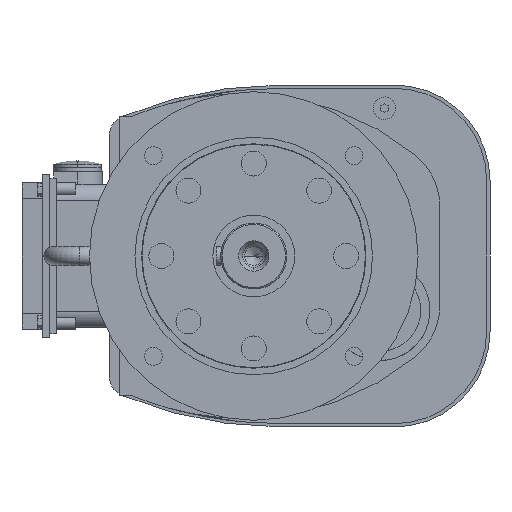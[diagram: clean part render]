
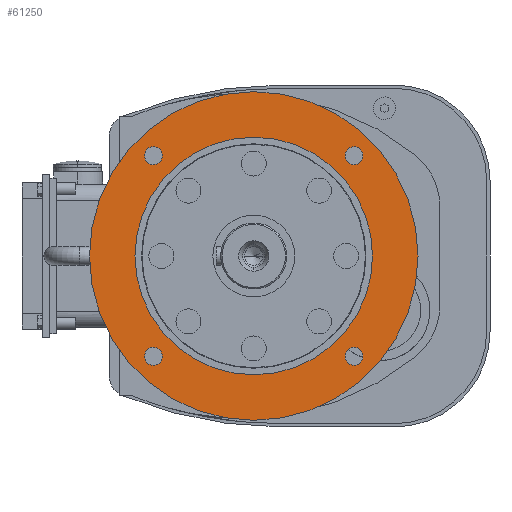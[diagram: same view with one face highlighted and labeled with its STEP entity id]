
A CAD part, left-side view. The second image highlights one B-rep face of the part: STEP entity #61250.
In plain terms, the highlighted planar face has unit normal (-1, 0, 0).
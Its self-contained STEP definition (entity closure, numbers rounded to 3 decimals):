
#56980=CARTESIAN_POINT('',(50.,0.,-90.));
#56990=VERTEX_POINT('',#56980);
#57040=CARTESIAN_POINT('',(50.,0.,0.));
#57050=DIRECTION('',(-1.,0.,0.));
#57060=DIRECTION('',(0.,0.,-1.));
#57070=AXIS2_PLACEMENT_3D('',#57040,#57050,#57060);
#57080=CIRCLE('',#57070,90.);
#57090=CARTESIAN_POINT('',(50.,0.,90.));
#57100=VERTEX_POINT('',#57090);
#57110=EDGE_CURVE('',#57100,#56990,#57080,.T.);
#57400=CARTESIAN_POINT('',(50.,-69.264,-76.014));
#57410=VERTEX_POINT('',#57400);
#57490=CARTESIAN_POINT('',(50.,-82.764,-76.014));
#57500=VERTEX_POINT('',#57490);
#57530=CARTESIAN_POINT('',(50.,-76.014,-76.014));
#57540=DIRECTION('',(-1.,0.,0.));
#57550=DIRECTION('',(0.,-1.,0.));
#57560=AXIS2_PLACEMENT_3D('',#57530,#57540,#57550);
#57570=CIRCLE('',#57560,6.75);
#57580=EDGE_CURVE('',#57410,#57500,#57570,.T.);
#57720=CARTESIAN_POINT('',(50.,-124.474,0.));
#57730=VERTEX_POINT('',#57720);
#57810=CARTESIAN_POINT('',(50.,124.474,0.));
#57820=VERTEX_POINT('',#57810);
#57850=CARTESIAN_POINT('',(50.,0.,0.));
#57860=DIRECTION('',(-1.,0.,0.));
#57870=DIRECTION('',(0.,-1.,0.));
#57880=AXIS2_PLACEMENT_3D('',#57850,#57860,#57870);
#57890=CIRCLE('',#57880,124.474);
#57900=EDGE_CURVE('',#57820,#57730,#57890,.T.);
#58620=CARTESIAN_POINT('',(50.,82.764,76.014));
#58630=VERTEX_POINT('',#58620);
#58710=CARTESIAN_POINT('',(50.,69.264,76.014));
#58720=VERTEX_POINT('',#58710);
#58750=CARTESIAN_POINT('',(50.,76.014,76.014));
#58760=DIRECTION('',(-1.,0.,0.));
#58770=DIRECTION('',(0.,-1.,0.));
#58780=AXIS2_PLACEMENT_3D('',#58750,#58760,#58770);
#58790=CIRCLE('',#58780,6.75);
#58800=EDGE_CURVE('',#58630,#58720,#58790,.T.);
#60570=CARTESIAN_POINT('',(50.,-69.264,76.014));
#60580=VERTEX_POINT('',#60570);
#60660=CARTESIAN_POINT('',(50.,-82.764,76.014));
#60670=VERTEX_POINT('',#60660);
#60700=CARTESIAN_POINT('',(50.,-76.014,76.014));
#60710=DIRECTION('',(-1.,0.,0.));
#60720=DIRECTION('',(0.,-1.,0.));
#60730=AXIS2_PLACEMENT_3D('',#60700,#60710,#60720);
#60740=CIRCLE('',#60730,6.75);
#60750=EDGE_CURVE('',#60580,#60670,#60740,.T.);
#60800=CARTESIAN_POINT('',(50.,0.,112.1));
#60810=DIRECTION('',(-1.,-0.,-0.));
#60820=DIRECTION('',(0.,0.,-1.));
#60830=AXIS2_PLACEMENT_3D('',#60800,#60810,#60820);
#60840=PLANE('',#60830);
#60850=EDGE_CURVE('',#58720,#58630,#58790,.T.);
#60860=ORIENTED_EDGE('',*,*,#60850,.F.);
#60870=ORIENTED_EDGE('',*,*,#58800,.F.);
#60880=EDGE_LOOP('',(#60870,#60860));
#60890=FACE_BOUND('',#60880,.T.);
#60900=EDGE_CURVE('',#57500,#57410,#57570,.T.);
#60910=ORIENTED_EDGE('',*,*,#60900,.F.);
#60920=ORIENTED_EDGE('',*,*,#57580,.F.);
#60930=EDGE_LOOP('',(#60920,#60910));
#60940=FACE_BOUND('',#60930,.T.);
#60950=EDGE_CURVE('',#60670,#60580,#60740,.T.);
#60960=ORIENTED_EDGE('',*,*,#60950,.F.);
#60970=ORIENTED_EDGE('',*,*,#60750,.F.);
#60980=EDGE_LOOP('',(#60970,#60960));
#60990=FACE_BOUND('',#60980,.T.);
#61000=ORIENTED_EDGE('',*,*,#57110,.F.);
#61010=EDGE_CURVE('',#56990,#57100,#57080,.T.);
#61020=ORIENTED_EDGE('',*,*,#61010,.F.);
#61030=EDGE_LOOP('',(#61020,#61000));
#61040=FACE_BOUND('',#61030,.T.);
#61050=CARTESIAN_POINT('',(50.,76.014,-76.014));
#61060=DIRECTION('',(-1.,0.,0.));
#61070=DIRECTION('',(0.,-1.,0.));
#61080=AXIS2_PLACEMENT_3D('',#61050,#61060,#61070);
#61090=CIRCLE('',#61080,6.75);
#61100=CARTESIAN_POINT('',(50.,69.264,-76.014));
#61110=VERTEX_POINT('',#61100);
#61120=CARTESIAN_POINT('',(50.,82.764,-76.014));
#61130=VERTEX_POINT('',#61120);
#61140=EDGE_CURVE('',#61110,#61130,#61090,.T.);
#61150=ORIENTED_EDGE('',*,*,#61140,.F.);
#61160=EDGE_CURVE('',#61130,#61110,#61090,.T.);
#61170=ORIENTED_EDGE('',*,*,#61160,.F.);
#61180=EDGE_LOOP('',(#61170,#61150));
#61190=FACE_BOUND('',#61180,.T.);
#61200=EDGE_CURVE('',#57730,#57820,#57890,.T.);
#61210=ORIENTED_EDGE('',*,*,#61200,.T.);
#61220=ORIENTED_EDGE('',*,*,#57900,.T.);
#61230=EDGE_LOOP('',(#61220,#61210));
#61240=FACE_OUTER_BOUND('',#61230,.T.);
#61250=ADVANCED_FACE('',(#60890,#60940,#60990,#61040,#61190,#61240),#60840,.T.);
